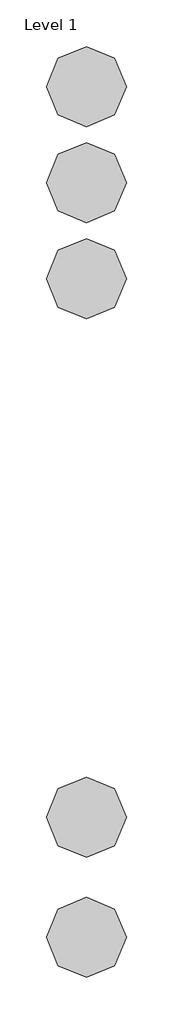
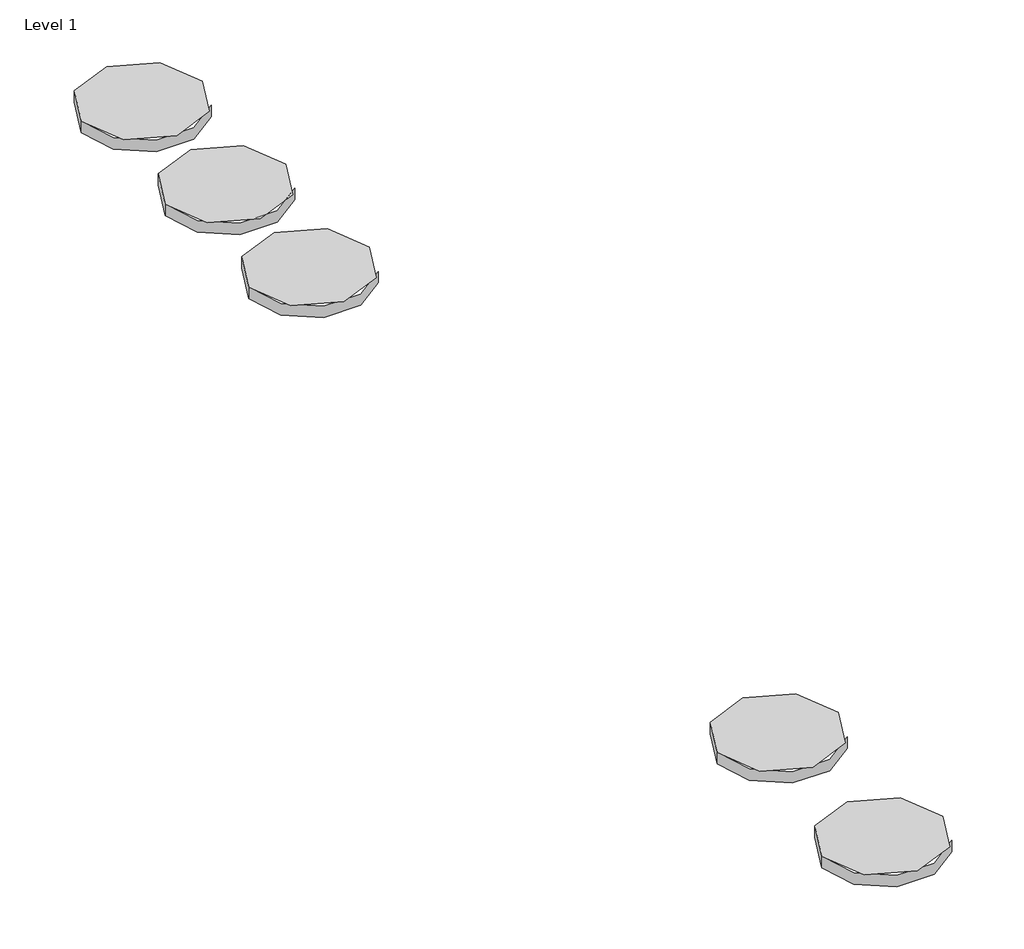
# One storey, incomplete: 5 proxies.
"""IFC4 building model written with IfcOpenShell, lengths in millimetres."""

import ifcopenshell
import ifcopenshell.guid

model = None  # the IFC model being written
_history = None  # IfcOwnerHistory: only IFC2X3 demands one
_inside = {}  # id of a spatial element -> (the spatial element, [elements in it])
_under = {}  # id of a project, library or spatial element -> (it, [spatial elements below it])
_declared = {}  # id of a project -> (the project, [libraries it declares])
_typed = {}  # id of a type object -> (the type object, [elements of that type])
_made_of = {}  # id of a material, layer set ... -> (it, [elements and type objects made of it])


def new_model(schema):
    """Start an empty IFC model of exactly this schema.

    Asked for "IFC4X3", IfcOpenShell would pick the latest addendum, in which some entities
    have other attributes; the version numbers below select the first issue.
    IFC2X3 requires an IfcOwnerHistory on every rooted entity: one is made here for all.
    """
    global model, _history
    if schema == "IFC4X3":
        model = ifcopenshell.file(schema_version=(4, 3, 0, 0))
    else:
        model = ifcopenshell.file(schema=schema)
    _inside.clear()
    _under.clear()
    _declared.clear()
    _typed.clear()
    _made_of.clear()
    _history = None
    if model.schema == "IFC2X3":
        org = make("IfcOrganization", Name="unknown")
        user = make(
            "IfcPersonAndOrganization",
            ThePerson=make("IfcPerson", FamilyName="unknown"),
            TheOrganization=org,
        )
        app = make(
            "IfcApplication",
            ApplicationDeveloper=org,
            Version="unknown",
            ApplicationFullName="unknown",
            ApplicationIdentifier="unknown",
        )
        _history = make(
            "IfcOwnerHistory",
            OwningUser=user,
            OwningApplication=app,
            ChangeAction="ADDED",
            CreationDate=0,
        )
    return model


def make(cls, **values):
    """One entity of the class cls with the attributes given. An attribute that is None is left unset."""
    return model.create_entity(
        cls, **{name: value for name, value in values.items() if value is not None}
    )


def rooted(cls, **values):
    """An entity with a GlobalId (a new one), such as an element, a storey or a relation."""
    return make(cls, GlobalId=ifcopenshell.guid.new(), OwnerHistory=_history, **values)


def si_unit(unit_type, name, prefix=None):
    """IfcSIUnit, for example si_unit("LENGTHUNIT", "METRE", prefix="MILLI")."""
    return make("IfcSIUnit", UnitType=unit_type, Prefix=prefix, Name=name)


def assignment(units):
    """IfcUnitAssignment: the units of a project."""
    return None if units is None else make("IfcUnitAssignment", Units=units)


def point(xyz):
    """IfcCartesianPoint."""
    return None if xyz is None else make("IfcCartesianPoint", Coordinates=xyz)


def direction(xyz):
    """IfcDirection."""
    return None if xyz is None else make("IfcDirection", DirectionRatios=xyz)


def frame(location, z_axis=None, x_axis=None):
    """IfcAxis2Placement3D, a coordinate frame: its origin and axes. An axis left out is left unset."""
    return make(
        "IfcAxis2Placement3D",
        Location=point(location),
        Axis=direction(z_axis),
        RefDirection=direction(x_axis),
    )


def frame_2d(location, x_axis=None):
    """IfcAxis2Placement2D, a coordinate frame in the plane: its origin and x axis."""
    return make(
        "IfcAxis2Placement2D", Location=point(location), RefDirection=direction(x_axis)
    )


def origin():
    """The frame at (0, 0, 0) with its axes left unset."""
    return frame((0.0, 0.0, 0.0))


def origin_with_axes():
    """The frame at (0, 0, 0) with the z axis (0, 0, 1) and the x axis (1, 0, 0) written out."""
    return frame((0.0, 0.0, 0.0), z_axis=(0.0, 0.0, 1.0), x_axis=(1.0, 0.0, 0.0))


def origin_2d():
    """The frame at (0, 0) in the plane with its x axis left unset."""
    return frame_2d((0.0, 0.0))


def place(relative_to, where):
    """IfcLocalPlacement: puts the frame where relative to a parent placement (None: the world)."""
    return make(
        "IfcLocalPlacement", PlacementRelTo=relative_to, RelativePlacement=where
    )


def context(
    kind, dimensions, precision=None, world=None, true_north=None, identifier=None
):
    """IfcGeometricRepresentationContext, for example the 3D "Model" context."""
    return make(
        "IfcGeometricRepresentationContext",
        ContextIdentifier=identifier,
        ContextType=kind,
        CoordinateSpaceDimension=dimensions,
        Precision=precision,
        WorldCoordinateSystem=world,
        TrueNorth=true_north,
    )


def project(units=None, contexts=None):
    """IfcProject with its units and contexts."""
    return rooted(
        "IfcProject",
        Name="project",
        RepresentationContexts=contexts,
        UnitsInContext=assignment(units),
    )


def spatial(cls, under=None, at=None, **own):
    """A site, building, storey or space (cls), placed at a placement, below another one or the project."""
    s = rooted(cls, ObjectPlacement=at, **own)
    if under is not None:
        _under.setdefault(under.id(), (under, []))[1].append(s)
    return s


def circle_curve(where, radius):
    """IfcCircle in the frame where."""
    return make("IfcCircle", Position=where, Radius=radius)


def trimmed(basis, trim1, trim2, sense, master):
    """IfcTrimmedCurve: the piece of a basis curve between two trims."""
    return make(
        "IfcTrimmedCurve",
        BasisCurve=basis,
        Trim1=trim1,
        Trim2=trim2,
        SenseAgreement=sense,
        MasterRepresentation=master,
    )


def segment(curve, same_sense, transition):
    """IfcCompositeCurveSegment."""
    return make(
        "IfcCompositeCurveSegment",
        Transition=transition,
        SameSense=same_sense,
        ParentCurve=curve,
    )


def composite_curve(segments, self_intersect=None):
    """IfcCompositeCurve: segments joined end to end."""
    return make("IfcCompositeCurve", Segments=segments, SelfIntersect=self_intersect)


def outline(outer, holes=None, kind="AREA"):
    """IfcArbitraryClosedProfileDef: a profile drawn as a closed curve; with holes, ...WithVoids."""
    if holes is None:
        return make("IfcArbitraryClosedProfileDef", ProfileType=kind, OuterCurve=outer)
    return make(
        "IfcArbitraryProfileDefWithVoids",
        ProfileType=kind,
        OuterCurve=outer,
        InnerCurves=holes,
    )


def extrude(swept, where, along, depth):
    """IfcExtrudedAreaSolid: the profile swept, set in the frame where, extruded along a direction by depth."""
    return make(
        "IfcExtrudedAreaSolid",
        SweptArea=swept,
        Position=where,
        ExtrudedDirection=direction(along),
        Depth=depth,
    )


def shape(context_of_items, identifier, shape_type, items):
    """IfcShapeRepresentation: the items that make up one representation, for example the "Body"."""
    return make(
        "IfcShapeRepresentation",
        ContextOfItems=context_of_items,
        RepresentationIdentifier=identifier,
        RepresentationType=shape_type,
        Items=items,
    )


def source(mapping_origin, context_of_items, identifier, shape_type, items):
    """IfcRepresentationMap: a shape defined once, which mapped items show again and again."""
    return make(
        "IfcRepresentationMap",
        MappingOrigin=mapping_origin,
        MappedRepresentation=shape(context_of_items, identifier, shape_type, items),
    )


def transform(
    local_origin,
    x_axis=None,
    y_axis=None,
    z_axis=None,
    scale=None,
    scale2=None,
    scale3=None,
    uniform=True,
):
    """IfcCartesianTransformationOperator3D, or its non-uniform kind. x_axis, y_axis, z_axis: its Axis1, 2, 3."""
    if uniform:
        return make(
            "IfcCartesianTransformationOperator3D",
            Axis1=direction(x_axis),
            Axis2=direction(y_axis),
            LocalOrigin=point(local_origin),
            Scale=scale,
            Axis3=direction(z_axis),
        )
    return make(
        "IfcCartesianTransformationOperator3DnonUniform",
        Axis1=direction(x_axis),
        Axis2=direction(y_axis),
        LocalOrigin=point(local_origin),
        Scale=scale,
        Axis3=direction(z_axis),
        Scale2=scale2,
        Scale3=scale3,
    )


def mapped(mapping_source, mapping_target):
    """IfcMappedItem: shows the shape of a source again, moved by a transform."""
    return make(
        "IfcMappedItem", MappingSource=mapping_source, MappingTarget=mapping_target
    )


def made_of(thing, what):
    """Note that an element or type object is made of a material, layer set ...; save() writes the relation."""
    if what is not None:
        _made_of.setdefault(what.id(), (what, []))[1].append(thing)
    return thing


def element(
    cls,
    number,
    at=None,
    inside=None,
    cuts=None,
    type_object=None,
    material=None,
    context=None,
    identifier="Body",
    shape_type=None,
    held_by="IfcProductDefinitionShape",
    body=None,
    shapes=None,
    **own,
):
    """One element of the class cls, such as IfcWall. Its Tag is "e" and its number.

    at: its placement. inside: the storey or other place that contains it. cuts: it is an
    opening in that element (IfcRelVoidsElement). A single representation is given by context,
    identifier, shape_type and body (its items); several are given by shapes. held_by: the class
    of the entity that holds the representations. save() writes the other relations.
    """
    e = rooted(cls, Tag="e%d" % number, ObjectPlacement=at, **own)
    if body is not None:
        shapes = [shape(context, identifier, shape_type, body)]
    if shapes is not None:
        e.Representation = make(held_by, Representations=shapes)
    if inside is not None:
        _inside.setdefault(inside.id(), (inside, []))[1].append(e)
    if cuts is not None:
        rooted(
            "IfcRelVoidsElement", RelatingBuildingElement=cuts, RelatedOpeningElement=e
        )
    if type_object is not None:
        _typed.setdefault(type_object.id(), (type_object, []))[1].append(e)
    return made_of(e, material)


def aggregate(whole, parts):
    """IfcRelAggregates: a whole, such as a stair, and the parts it consists of."""
    return rooted("IfcRelAggregates", RelatingObject=whole, RelatedObjects=parts)


def save(model, path):
    """Write the relations noted so far, then the file.

    IfcRelAggregates (storeys below a building ...), IfcRelContainedInSpatialStructure (elements
    in a storey), IfcRelDefinesByType, IfcRelAssociatesMaterial and IfcRelDeclares: one each for
    every whole, place, type object, material and project.
    """
    for whole, parts in _under.values():
        aggregate(whole, parts)
    for where, things in _inside.values():
        rooted(
            "IfcRelContainedInSpatialStructure",
            RelatedElements=things,
            RelatingStructure=where,
        )
    for kind, things in _typed.values():
        rooted("IfcRelDefinesByType", RelatedObjects=things, RelatingType=kind)
    for what, things in _made_of.values():
        rooted("IfcRelAssociatesMaterial", RelatedObjects=things, RelatingMaterial=what)
    for by, libraries in _declared.values():
        rooted("IfcRelDeclares", RelatingContext=by, RelatedDefinitions=libraries)
    model.write(path)


def materialmodel_materialmodel_ac00f72a(model_context):
    return source(origin(), model_context, "Body", "SweptSolid", [
        extrude(outline(composite_curve([segment(trimmed(circle_curve(origin_2d(), 100.0), [point((-100.0, 0.0))], [point((100.0, 0.0))], False, "CARTESIAN"), True, "CONTINUOUS"), segment(trimmed(circle_curve(origin_2d(), 100.0), [point((100.0, 0.0))], [point((-100.0, 0.0))], False, "CARTESIAN"), True, "CONTINUOUS")], self_intersect=False)), origin_with_axes(), (0.0, 0.0, 1.0), 20.0),
    ])


model = new_model("IFC4")

# Units and contexts
model_context = context("Model", 3, world=origin())
ifc_project = project(units=[si_unit("LENGTHUNIT", "METRE", prefix="MILLI")], contexts=[model_context])

# Site, building, storey
site = spatial("IfcSite", under=ifc_project)
building = spatial("IfcBuilding", under=site)
storey = spatial("IfcBuildingStorey", under=building, Name="Level 1", Elevation=0.0)

# Proxies
placement = place(None, origin())
materialmodel_materialmodel_shape = materialmodel_materialmodel_ac00f72a(model_context)
element("IfcBuildingElementProxy", 1, Name="MaterialModel : MaterialModel", ObjectType="MaterialModel : MaterialModel", at=placement, inside=storey, context=model_context, shape_type="MappedRepresentation", body=[
    mapped(materialmodel_materialmodel_shape, transform((-11701.407422, 4552.5574421, 0.0), x_axis=(1.0, 0.0, 0.0), y_axis=(0.0, 1.0, 0.0), z_axis=(0.0, 0.0, 1.0))),
])
element("IfcBuildingElementProxy", 2, Name="MaterialModel : MaterialModel", ObjectType="MaterialModel : MaterialModel", at=placement, inside=storey, context=model_context, shape_type="MappedRepresentation", body=[
    mapped(materialmodel_materialmodel_shape, transform((-11701.407422, 6677.5703847, 0.0), x_axis=(1.0, 0.0, 0.0), y_axis=(0.0, 1.0, 0.0), z_axis=(0.0, 0.0, 1.0))),
])
element("IfcBuildingElementProxy", 3, Name="MaterialModel : MaterialModel", ObjectType="MaterialModel : MaterialModel", at=placement, inside=storey, context=model_context, shape_type="MappedRepresentation", body=[
    mapped(materialmodel_materialmodel_shape, transform((-11701.407422, 6437.5703847, 0.0), x_axis=(1.0, 0.0, 0.0), y_axis=(0.0, 1.0, 0.0), z_axis=(0.0, 0.0, 1.0))),
])
element("IfcBuildingElementProxy", 4, Name="MaterialModel : MaterialModel", ObjectType="MaterialModel : MaterialModel", at=placement, inside=storey, context=model_context, shape_type="MappedRepresentation", body=[
    mapped(materialmodel_materialmodel_shape, transform((-11701.407422, 6197.5703847, 0.0), x_axis=(1.0, 0.0, 0.0), y_axis=(0.0, 1.0, 0.0), z_axis=(0.0, 0.0, 1.0))),
])
element("IfcBuildingElementProxy", 5, Name="MaterialModel : MaterialModel", ObjectType="MaterialModel : MaterialModel", at=placement, inside=storey, context=model_context, shape_type="MappedRepresentation", body=[
    mapped(materialmodel_materialmodel_shape, transform((-11701.407422, 4852.5574421, 0.0), x_axis=(1.0, 0.0, 0.0), y_axis=(0.0, 1.0, 0.0), z_axis=(0.0, 0.0, 1.0))),
])

save(model, "model.ifc")
